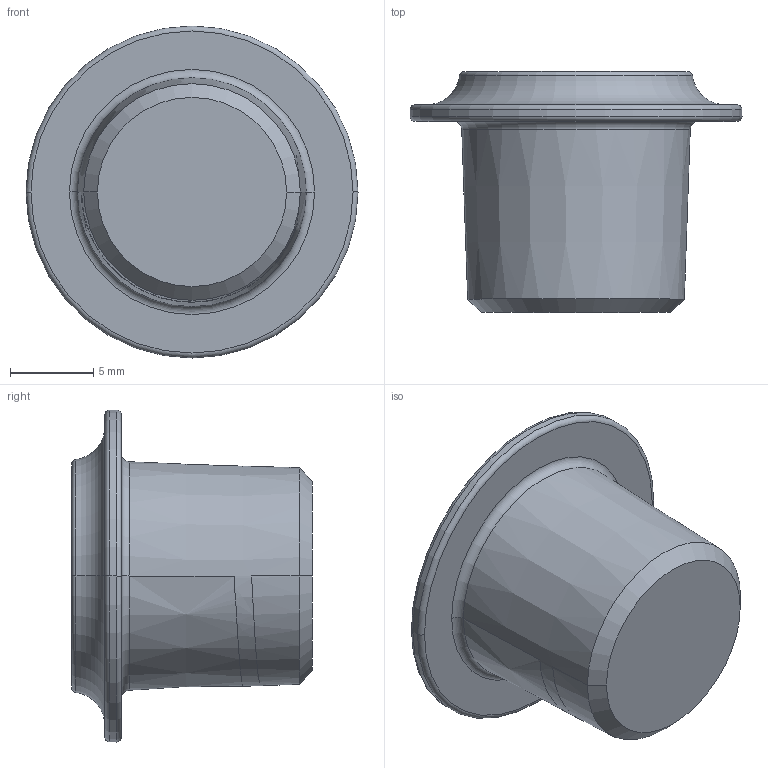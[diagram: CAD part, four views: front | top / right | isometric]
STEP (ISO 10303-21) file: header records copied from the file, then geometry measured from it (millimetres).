
FILE_DESCRIPTION((''),'2;1');
FILE_NAME('48240120_PRT','2020-09-16T17:17:13',('Luca.Carnelos'),(''),'CREO PARAMETRIC BY PTC INC, 2020154','CREO PARAMETRIC BY PTC INC, 2020154','');
FILE_SCHEMA(('CONFIG_CONTROL_DESIGN'));
Length unit declared in the file: millimetre
Products named in the file (1): 48240120_PRT
Bounding box: 20 x 14.5 x 20 mm (x, y, z)
Volume: 1661.4 mm3; surface area: 1456.9 mm2
Topology: 1 solids, 1 shells, 72 faces, 171 edges, 105 vertices
Faces by surface type: cylinder 20, torus 18, plane 12, cone 10, bspline 6, sphere 6
Entity records: 2449 total; most frequent: CARTESIAN_POINT 746, DIRECTION 369, ORIENTED_EDGE 342, EDGE_CURVE 171, AXIS2_PLACEMENT_3D 160, VERTEX_POINT 105, CIRCLE 94, EDGE_LOOP 76
